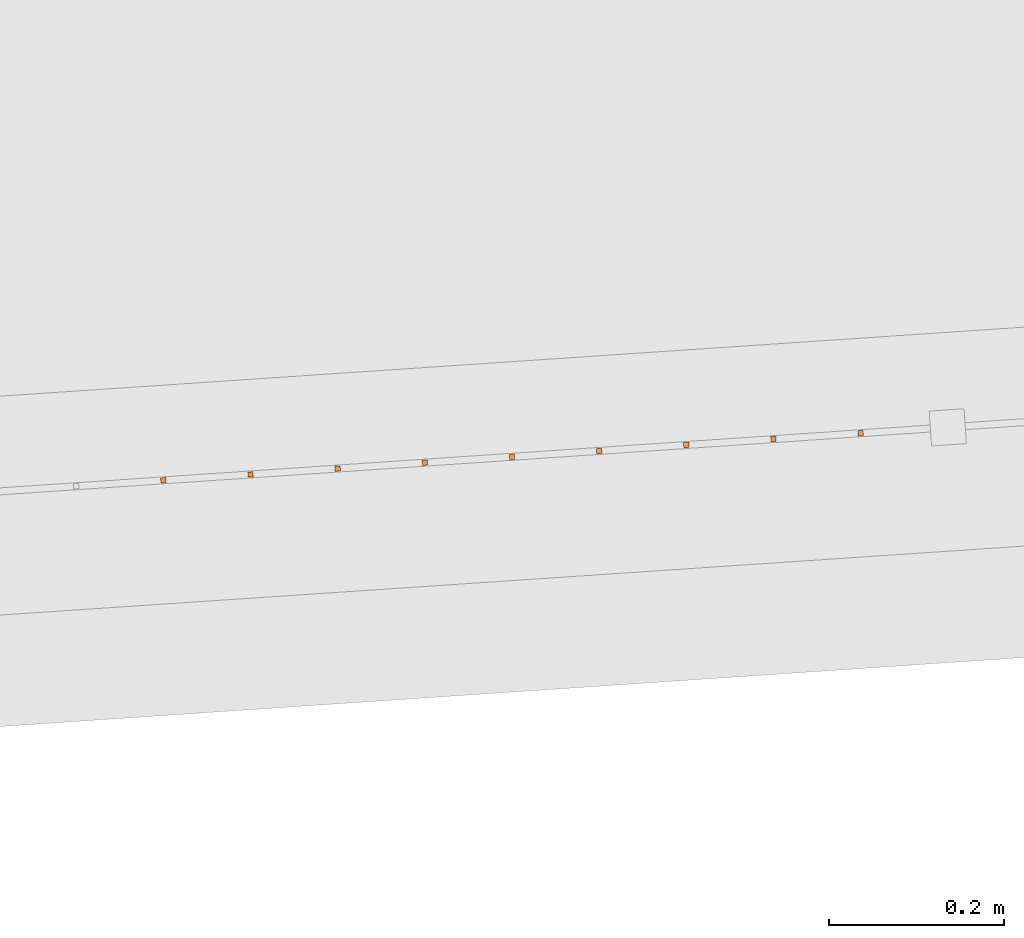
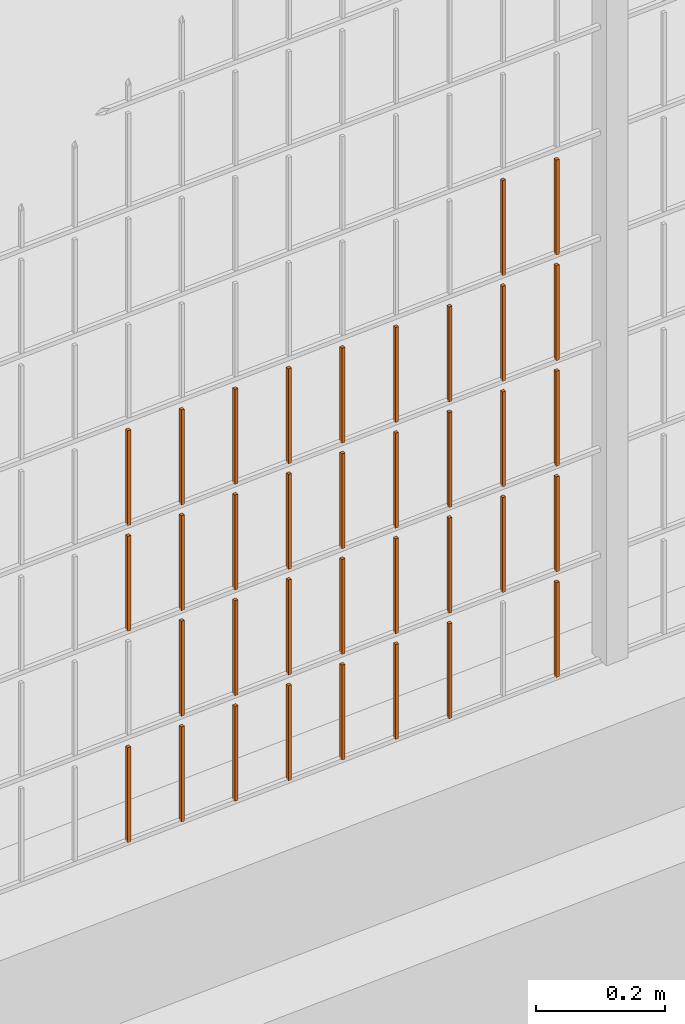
# One storey, part 274 of 1809: 36 proxies, 1 element without a shape of its own.
"""IFC2X3 building model written with IfcOpenShell, lengths in millimetres."""

from ifc_helpers import new_model, entity, si_unit, converted_unit, derived_unit, money_unit, direction, frame, origin_with_axes, place, context, subcontext, project, spatial, faceted_brep, source, transform, mapped, material, type_object, element, aggregate, save


model = new_model("IFC2X3")

# Units and contexts
model_context = context("Model", 3, precision=0.01, world=origin_with_axes(), true_north=direction((0.0, 1.0)))
body_context = subcontext(model_context, "Body", "Model", "MODEL_VIEW")
ifc_project = project(units=[si_unit("LENGTHUNIT", "METRE", prefix="MILLI"), si_unit("AREAUNIT", "SQUARE_METRE"), si_unit("VOLUMEUNIT", "CUBIC_METRE"), converted_unit("PLANEANGLEUNIT", "DEGREE", entity("IfcPlaneAngleMeasure", 0.0174532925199), si_unit("PLANEANGLEUNIT", "RADIAN"), dimensions=[0, 0, 0, 0, 0, 0, 0]), si_unit("SOLIDANGLEUNIT", "STERADIAN"), money_unit("EUR"), converted_unit("TIMEUNIT", "Year", entity("IfcTimeMeasure", 31556926.0), si_unit("TIMEUNIT", "SECOND"), dimensions=[0, 0, 1, 0, 0, 0, 0]), si_unit("MASSUNIT", "GRAM", prefix="KILO"), si_unit("THERMODYNAMICTEMPERATUREUNIT", "DEGREE_CELSIUS"), si_unit("LUMINOUSINTENSITYUNIT", "LUMEN"), si_unit("ENERGYUNIT", "JOULE", prefix="MEGA"), derived_unit("THERMALCONDUCTANCEUNIT", [(si_unit("POWERUNIT", "WATT"), 1), (si_unit("LENGTHUNIT", "METRE"), -1), (si_unit("THERMODYNAMICTEMPERATUREUNIT", "KELVIN"), -1)]), derived_unit("SPECIFICHEATCAPACITYUNIT", [(si_unit("ENERGYUNIT", "JOULE"), 1), (si_unit("MASSUNIT", "GRAM", prefix="KILO"), -1), (si_unit("THERMODYNAMICTEMPERATUREUNIT", "KELVIN"), -1)]), derived_unit("MASSDENSITYUNIT", [(si_unit("MASSUNIT", "GRAM", prefix="KILO"), 1), (si_unit("VOLUMEUNIT", "CUBIC_METRE"), -1)])], contexts=[model_context])

# Site, building, storey
site_placement = place(None, origin_with_axes())
site = spatial("IfcSite", under=ifc_project, at=site_placement, Name="Politse- ja Piirivalveameti ning Päästeameti ühishoone", CompositionType="ELEMENT")
building_placement = place(site_placement, origin_with_axes())
building = spatial("IfcBuilding", under=site, at=building_placement, Name="Politse- ja Piirivalveameti ning Päästeameti ühishoone", CompositionType="ELEMENT")
storey_placement = place(building_placement, origin_with_axes())
storey = spatial("IfcBuildingStorey", under=building, at=storey_placement, Name="Esimene korrus", CompositionType="ELEMENT", Elevation=0.0)

# Proxies
building_element_proxy_type_1 = type_object("IfcBuildingElementProxyType", Name="Railing Type", PredefinedType="NOTDEFINED")
proxy_1_placement = place(storey_placement, frame((89252.001212, -29183.4766571, 203.661247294), z_axis=(0.0, 0.0, 1.0), x_axis=(1.0, 0.0, 0.0)))
proxy_1 = element("IfcBuildingElementProxy", 1, at=proxy_1_placement, inside=storey, type_object=building_element_proxy_type_1, Name="PIIRDEAED")
ifc_material = material(Name="ET-03_Raud")
building_element_proxy_type_2 = type_object("IfcBuildingElementProxyType", Name="IfcBuildingElementProxy", PredefinedType="NOTDEFINED")
shared_shape_1 = source(origin_with_axes(), body_context, "Body", "Brep", [
    faceted_brep([(3.0, 3.0, -0.000752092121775), (-3.0, 3.0, -0.000752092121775), (-3.0, 3.0, 179.99926046), (3.0, 3.0, 179.99926046), (3.0, -3.0, 0.000752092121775), (-3.0, -3.0, 0.000752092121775), (-3.0, -3.0, 180.000764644), (3.0, -3.0, 180.000764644)], [[[0, 1, 2, 3]], [[0, 4, 5, 1]], [[1, 5, 6, 2]], [[3, 2, 6, 7]], [[4, 0, 3, 7]], [[5, 4, 7, 6]]]),
])
proxy_2_placement = place(proxy_1_placement, frame((-52806.3607445, -20864.6451459, 213.965803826), z_axis=(0.0, 0.0, 1.0), x_axis=(1.0, 0.0, 0.0)))
proxy_2 = element("IfcBuildingElementProxy", 2, at=proxy_2_placement, type_object=building_element_proxy_type_2, material=ifc_material, Name="BALUSTER - 001", context=body_context, shape_type="MappedRepresentation", body=[
    mapped(shared_shape_1, transform((0.0, 0.0, 0.0), x_axis=(-0.0673926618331, 0.997726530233, 0.0), y_axis=(-0.997726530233, -0.0673926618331, 0.0), z_axis=(0.0, 0.0, 1.0))),
])
proxy_3_placement = place(proxy_1_placement, frame((-52806.3607445, -20864.6451459, 413.965803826), z_axis=(0.0, 0.0, 1.0), x_axis=(1.0, 0.0, 0.0)))
proxy_3 = element("IfcBuildingElementProxy", 3, at=proxy_3_placement, type_object=building_element_proxy_type_2, material=ifc_material, Name="BALUSTER - 001", context=body_context, shape_type="MappedRepresentation", body=[
    mapped(shared_shape_1, transform((0.0, 0.0, 0.0), x_axis=(-0.0673926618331, 0.997726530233, 0.0), y_axis=(-0.997726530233, -0.0673926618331, 0.0), z_axis=(0.0, 0.0, 1.0))),
])
shared_shape_2 = source(origin_with_axes(), body_context, "Body", "Brep", [
    faceted_brep([(3.0, 3.0, -0.000752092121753), (-3.0, 3.0, -0.000752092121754), (-3.0, 3.0, 179.99926046), (3.0, 3.0, 179.99926046), (3.0, -3.0, 0.000752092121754), (-3.0, -3.0, 0.000752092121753), (-3.0, -3.0, 180.000764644), (3.0, -3.0, 180.000764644)], [[[0, 1, 2, 3]], [[0, 4, 5, 1]], [[1, 5, 6, 2]], [[3, 2, 6, 7]], [[4, 0, 3, 7]], [[5, 4, 7, 6]]]),
])
proxy_4_placement = place(proxy_1_placement, frame((-52706.5880915, -20857.9058797, 413.990873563), z_axis=(0.0, 0.0, 1.0), x_axis=(1.0, 0.0, 0.0)))
proxy_4 = element("IfcBuildingElementProxy", 4, at=proxy_4_placement, type_object=building_element_proxy_type_2, material=ifc_material, Name="BALUSTER - 001", context=body_context, shape_type="MappedRepresentation", body=[
    mapped(shared_shape_2, transform((0.0, 0.0, 0.0), x_axis=(-0.0673926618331, 0.997726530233, 0.0), y_axis=(-0.997726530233, -0.0673926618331, 0.0), z_axis=(0.0, 0.0, 1.0))),
])
shared_shape_3 = source(origin_with_axes(), body_context, "Body", "Brep", [
    faceted_brep([(3.0, 3.0, -0.000752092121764), (-3.0, 3.0, -0.000752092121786), (-3.0, 3.0, 179.99926046), (3.0, 3.0, 179.99926046), (3.0, -3.0, 0.000752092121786), (-3.0, -3.0, 0.000752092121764), (-3.0, -3.0, 180.000764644), (3.0, -3.0, 180.000764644)], [[[0, 1, 2, 3]], [[0, 4, 5, 1]], [[1, 5, 6, 2]], [[3, 2, 6, 7]], [[4, 0, 3, 7]], [[5, 4, 7, 6]]]),
])
proxy_5_placement = place(proxy_1_placement, frame((-52407.2701324, -20837.6880811, 214.066082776), z_axis=(0.0, 0.0, 1.0), x_axis=(1.0, 0.0, 0.0)))
proxy_5 = element("IfcBuildingElementProxy", 5, at=proxy_5_placement, type_object=building_element_proxy_type_2, material=ifc_material, Name="BALUSTER - 001", context=body_context, shape_type="MappedRepresentation", body=[
    mapped(shared_shape_3, transform((0.0, 0.0, 0.0), x_axis=(-0.0673926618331, 0.997726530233, 0.0), y_axis=(-0.997726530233, -0.0673926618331, 0.0), z_axis=(0.0, 0.0, 1.0))),
])
proxy_6_placement = place(proxy_1_placement, frame((-52407.2701324, -20837.6880811, 614.066082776), z_axis=(0.0, 0.0, 1.0), x_axis=(1.0, 0.0, 0.0)))
proxy_6 = element("IfcBuildingElementProxy", 6, at=proxy_6_placement, type_object=building_element_proxy_type_2, material=ifc_material, Name="BALUSTER - 001", context=body_context, shape_type="MappedRepresentation", body=[
    mapped(shared_shape_3, transform((0.0, 0.0, 0.0), x_axis=(-0.0673926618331, 0.997726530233, 0.0), y_axis=(-0.997726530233, -0.0673926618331, 0.0), z_axis=(0.0, 0.0, 1.0))),
])
shared_shape_4 = source(origin_with_axes(), body_context, "Body", "Brep", [
    faceted_brep([(3.0, 3.0, -0.000752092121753), (-3.0, 3.0, -0.000752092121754), (-3.0, 3.0, 179.99926046), (3.0, 3.0, 179.99926046), (3.0, -3.0, 0.000752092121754), (-3.0, -3.0, 0.000752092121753), (-3.0, -3.0, 180.000764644), (3.0, -3.0, 180.000764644)], [[[0, 1, 2, 3]], [[0, 4, 5, 1]], [[1, 5, 6, 2]], [[3, 2, 6, 7]], [[4, 0, 3, 7]], [[5, 4, 7, 6]]]),
])
proxy_7_placement = place(proxy_1_placement, frame((-52706.5880915, -20857.9058797, 613.990873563), z_axis=(0.0, 0.0, 1.0), x_axis=(1.0, 0.0, 0.0)))
proxy_7 = element("IfcBuildingElementProxy", 7, at=proxy_7_placement, type_object=building_element_proxy_type_2, material=ifc_material, Name="BALUSTER - 001", context=body_context, shape_type="MappedRepresentation", body=[
    mapped(shared_shape_4, transform((0.0, 0.0, 0.0), x_axis=(-0.0673926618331, 0.997726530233, 0.0), y_axis=(-0.997726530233, -0.0673926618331, 0.0), z_axis=(0.0, 0.0, 1.0))),
])
shared_shape_5 = source(origin_with_axes(), body_context, "Body", "Brep", [
    faceted_brep([(3.0, 3.0, -0.000752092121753), (-3.0, 3.0, -0.000752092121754), (-3.0, 3.0, 179.99926046), (3.0, 3.0, 179.99926046), (3.0, -3.0, 0.000752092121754), (-3.0, -3.0, 0.000752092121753), (-3.0, -3.0, 180.000764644), (3.0, -3.0, 180.000764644)], [[[0, 1, 2, 3]], [[0, 4, 5, 1]], [[1, 5, 6, 2]], [[3, 2, 6, 7]], [[4, 0, 3, 7]], [[5, 4, 7, 6]]]),
])
proxy_8_placement = place(proxy_1_placement, frame((-52706.5880915, -20857.9058797, 13.9908735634), z_axis=(0.0, 0.0, 1.0), x_axis=(1.0, 0.0, 0.0)))
proxy_8 = element("IfcBuildingElementProxy", 8, at=proxy_8_placement, type_object=building_element_proxy_type_2, material=ifc_material, Name="BALUSTER - 001", context=body_context, shape_type="MappedRepresentation", body=[
    mapped(shared_shape_5, transform((0.0, 0.0, 0.0), x_axis=(-0.0673926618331, 0.997726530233, 0.0), y_axis=(-0.997726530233, -0.0673926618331, 0.0), z_axis=(0.0, 0.0, 1.0))),
])
proxy_9_placement = place(proxy_1_placement, frame((-52706.5880915, -20857.9058797, 213.990873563), z_axis=(0.0, 0.0, 1.0), x_axis=(1.0, 0.0, 0.0)))
proxy_9 = element("IfcBuildingElementProxy", 9, at=proxy_9_placement, type_object=building_element_proxy_type_2, material=ifc_material, Name="BALUSTER - 001", context=body_context, shape_type="MappedRepresentation", body=[
    mapped(shared_shape_5, transform((0.0, 0.0, 0.0), x_axis=(-0.0673926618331, 0.997726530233, 0.0), y_axis=(-0.997726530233, -0.0673926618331, 0.0), z_axis=(0.0, 0.0, 1.0))),
])
shared_shape_6 = source(origin_with_axes(), body_context, "Body", "Brep", [
    faceted_brep([(3.0, 3.0, -0.000752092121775), (-3.0, 3.0, -0.000752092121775), (-3.0, 3.0, 179.99926046), (3.0, 3.0, 179.99926046), (3.0, -3.0, 0.000752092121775), (-3.0, -3.0, 0.000752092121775), (-3.0, -3.0, 180.000764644), (3.0, -3.0, 180.000764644)], [[[0, 1, 2, 3]], [[0, 4, 5, 1]], [[1, 5, 6, 2]], [[3, 2, 6, 7]], [[4, 0, 3, 7]], [[5, 4, 7, 6]]]),
])
proxy_10_placement = place(proxy_1_placement, frame((-52806.3607445, -20864.6451459, 13.965803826), z_axis=(0.0, 0.0, 1.0), x_axis=(1.0, 0.0, 0.0)))
proxy_10 = element("IfcBuildingElementProxy", 10, at=proxy_10_placement, type_object=building_element_proxy_type_2, material=ifc_material, Name="BALUSTER - 001", context=body_context, shape_type="MappedRepresentation", body=[
    mapped(shared_shape_6, transform((0.0, 0.0, 0.0), x_axis=(-0.0673926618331, 0.997726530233, 0.0), y_axis=(-0.997726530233, -0.0673926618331, 0.0), z_axis=(0.0, 0.0, 1.0))),
])
shared_shape_7 = source(origin_with_axes(), body_context, "Body", "Brep", [
    faceted_brep([(3.0, 3.0, -0.000752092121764), (-3.0, 3.0, -0.000752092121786), (-3.0, 3.0, 179.99926046), (3.0, 3.0, 179.99926046), (3.0, -3.0, 0.000752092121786), (-3.0, -3.0, 0.000752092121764), (-3.0, -3.0, 180.000764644), (3.0, -3.0, 180.000764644)], [[[0, 1, 2, 3]], [[0, 4, 5, 1]], [[1, 5, 6, 2]], [[3, 2, 6, 7]], [[4, 0, 3, 7]], [[5, 4, 7, 6]]]),
])
proxy_11_placement = place(proxy_1_placement, frame((-52407.2701324, -20837.6880811, 414.066082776), z_axis=(0.0, 0.0, 1.0), x_axis=(1.0, 0.0, 0.0)))
proxy_11 = element("IfcBuildingElementProxy", 11, at=proxy_11_placement, type_object=building_element_proxy_type_2, material=ifc_material, Name="BALUSTER - 001", context=body_context, shape_type="MappedRepresentation", body=[
    mapped(shared_shape_7, transform((0.0, 0.0, 0.0), x_axis=(-0.0673926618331, 0.997726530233, 0.0), y_axis=(-0.997726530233, -0.0673926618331, 0.0), z_axis=(0.0, 0.0, 1.0))),
])
shared_shape_8 = source(origin_with_axes(), body_context, "Body", "Brep", [
    faceted_brep([(3.0, 3.0, -0.000752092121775), (-3.0, 3.0, -0.000752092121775), (-3.0, 3.0, 179.99926046), (3.0, 3.0, 179.99926046), (3.0, -3.0, 0.000752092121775), (-3.0, -3.0, 0.000752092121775), (-3.0, -3.0, 180.000764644), (3.0, -3.0, 180.000764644)], [[[0, 1, 2, 3]], [[0, 4, 5, 1]], [[1, 5, 6, 2]], [[3, 2, 6, 7]], [[4, 0, 3, 7]], [[5, 4, 7, 6]]]),
])
proxy_12_placement = place(proxy_1_placement, frame((-52806.3607445, -20864.6451459, 613.965803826), z_axis=(0.0, 0.0, 1.0), x_axis=(1.0, 0.0, 0.0)))
proxy_12 = element("IfcBuildingElementProxy", 12, at=proxy_12_placement, type_object=building_element_proxy_type_2, material=ifc_material, Name="BALUSTER - 001", context=body_context, shape_type="MappedRepresentation", body=[
    mapped(shared_shape_8, transform((0.0, 0.0, 0.0), x_axis=(-0.0673926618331, 0.997726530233, 0.0), y_axis=(-0.997726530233, -0.0673926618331, 0.0), z_axis=(0.0, 0.0, 1.0))),
])
shared_shape_9 = source(origin_with_axes(), body_context, "Body", "Brep", [
    faceted_brep([(3.0, 3.0, -0.000752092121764), (-3.0, 3.0, -0.000752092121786), (-3.0, 3.0, 179.99926046), (3.0, 3.0, 179.99926046), (3.0, -3.0, 0.000752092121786), (-3.0, -3.0, 0.000752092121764), (-3.0, -3.0, 180.000764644), (3.0, -3.0, 180.000764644)], [[[0, 1, 2, 3]], [[0, 4, 5, 1]], [[1, 5, 6, 2]], [[3, 2, 6, 7]], [[4, 0, 3, 7]], [[5, 4, 7, 6]]]),
])
proxy_13_placement = place(proxy_1_placement, frame((-52407.2701324, -20837.6880811, 814.066082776), z_axis=(0.0, 0.0, 1.0), x_axis=(1.0, 0.0, 0.0)))
proxy_13 = element("IfcBuildingElementProxy", 13, at=proxy_13_placement, type_object=building_element_proxy_type_2, material=ifc_material, Name="BALUSTER - 001", context=body_context, shape_type="MappedRepresentation", body=[
    mapped(shared_shape_9, transform((0.0, 0.0, 0.0), x_axis=(-0.0673926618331, 0.997726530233, 0.0), y_axis=(-0.997726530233, -0.0673926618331, 0.0), z_axis=(0.0, 0.0, 1.0))),
])
shared_shape_10 = source(origin_with_axes(), body_context, "Body", "Brep", [
    faceted_brep([(3.0, 3.0, -0.000752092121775), (-3.0, 3.0, -0.000752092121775), (-3.0, 3.0, 179.99926046), (3.0, 3.0, 179.99926046), (3.0, -3.0, 0.000752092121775), (-3.0, -3.0, 0.000752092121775), (-3.0, -3.0, 180.000764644), (3.0, -3.0, 180.000764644)], [[[0, 1, 2, 3]], [[0, 4, 5, 1]], [[1, 5, 6, 2]], [[3, 2, 6, 7]], [[4, 0, 3, 7]], [[5, 4, 7, 6]]]),
])
proxy_14_placement = place(proxy_1_placement, frame((-52507.0427854, -20844.4273473, 414.041013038), z_axis=(0.0, 0.0, 1.0), x_axis=(1.0, 0.0, 0.0)))
proxy_14 = element("IfcBuildingElementProxy", 14, at=proxy_14_placement, type_object=building_element_proxy_type_2, material=ifc_material, Name="BALUSTER - 001", context=body_context, shape_type="MappedRepresentation", body=[
    mapped(shared_shape_10, transform((0.0, 0.0, 0.0), x_axis=(-0.0673926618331, 0.997726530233, 0.0), y_axis=(-0.997726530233, -0.0673926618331, 0.0), z_axis=(0.0, 0.0, 1.0))),
])
shared_shape_11 = source(origin_with_axes(), body_context, "Body", "Brep", [
    faceted_brep([(3.0, 3.0, -0.000752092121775), (-3.0, 3.0, -0.000752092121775), (-3.0, 3.0, 179.99926046), (3.0, 3.0, 179.99926046), (3.0, -3.0, 0.000752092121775), (-3.0, -3.0, 0.000752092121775), (-3.0, -3.0, 180.000764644), (3.0, -3.0, 180.000764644)], [[[0, 1, 2, 3]], [[0, 4, 5, 1]], [[1, 5, 6, 2]], [[3, 2, 6, 7]], [[4, 0, 3, 7]], [[5, 4, 7, 6]]]),
])
proxy_15_placement = place(proxy_1_placement, frame((-52507.0427854, -20844.4273473, 214.041013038), z_axis=(0.0, 0.0, 1.0), x_axis=(1.0, 0.0, 0.0)))
proxy_15 = element("IfcBuildingElementProxy", 15, at=proxy_15_placement, type_object=building_element_proxy_type_2, material=ifc_material, Name="BALUSTER - 001", context=body_context, shape_type="MappedRepresentation", body=[
    mapped(shared_shape_11, transform((0.0, 0.0, 0.0), x_axis=(-0.0673926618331, 0.997726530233, 0.0), y_axis=(-0.997726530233, -0.0673926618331, 0.0), z_axis=(0.0, 0.0, 1.0))),
])
shared_shape_12 = source(origin_with_axes(), body_context, "Body", "Brep", [
    faceted_brep([(3.0, 3.0, -0.000752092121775), (-3.0, 3.0, -0.000752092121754), (-3.0, 3.0, 179.99926046), (3.0, 3.0, 179.99926046), (3.0, -3.0, 0.000752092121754), (-3.0, -3.0, 0.000752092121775), (-3.0, -3.0, 180.000764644), (3.0, -3.0, 180.000764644)], [[[0, 1, 2, 3]], [[0, 4, 5, 1]], [[1, 5, 6, 2]], [[3, 2, 6, 7]], [[4, 0, 3, 7]], [[5, 4, 7, 6]]]),
])
proxy_16_placement = place(proxy_1_placement, frame((-52906.1333975, -20871.3844121, 413.940734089), z_axis=(0.0, 0.0, 1.0), x_axis=(1.0, 0.0, 0.0)))
proxy_16 = element("IfcBuildingElementProxy", 16, at=proxy_16_placement, type_object=building_element_proxy_type_2, material=ifc_material, Name="BALUSTER - 001", context=body_context, shape_type="MappedRepresentation", body=[
    mapped(shared_shape_12, transform((0.0, 0.0, 0.0), x_axis=(-0.0673926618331, 0.997726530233, 0.0), y_axis=(-0.997726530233, -0.0673926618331, 0.0), z_axis=(0.0, 0.0, 1.0))),
])
proxy_17_placement = place(proxy_1_placement, frame((-52906.1333975, -20871.3844121, 613.940734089), z_axis=(0.0, 0.0, 1.0), x_axis=(1.0, 0.0, 0.0)))
proxy_17 = element("IfcBuildingElementProxy", 17, at=proxy_17_placement, type_object=building_element_proxy_type_2, material=ifc_material, Name="BALUSTER - 001", context=body_context, shape_type="MappedRepresentation", body=[
    mapped(shared_shape_12, transform((0.0, 0.0, 0.0), x_axis=(-0.0673926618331, 0.997726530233, 0.0), y_axis=(-0.997726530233, -0.0673926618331, 0.0), z_axis=(0.0, 0.0, 1.0))),
])
shared_shape_13 = source(origin_with_axes(), body_context, "Body", "Brep", [
    faceted_brep([(3.0, 3.0, -0.000752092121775), (-3.0, 3.0, -0.000752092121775), (-3.0, 3.0, 179.99926046), (3.0, 3.0, 179.99926046), (3.0, -3.0, 0.000752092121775), (-3.0, -3.0, 0.000752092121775), (-3.0, -3.0, 180.000764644), (3.0, -3.0, 180.000764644)], [[[0, 1, 2, 3]], [[0, 4, 5, 1]], [[1, 5, 6, 2]], [[3, 2, 6, 7]], [[4, 0, 3, 7]], [[5, 4, 7, 6]]]),
])
proxy_18_placement = place(proxy_1_placement, frame((-52606.8154385, -20851.1666135, 14.0159433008), z_axis=(0.0, 0.0, 1.0), x_axis=(1.0, 0.0, 0.0)))
proxy_18 = element("IfcBuildingElementProxy", 18, at=proxy_18_placement, type_object=building_element_proxy_type_2, material=ifc_material, Name="BALUSTER - 001", context=body_context, shape_type="MappedRepresentation", body=[
    mapped(shared_shape_13, transform((0.0, 0.0, 0.0), x_axis=(-0.0673926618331, 0.997726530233, 0.0), y_axis=(-0.997726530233, -0.0673926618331, 0.0), z_axis=(0.0, 0.0, 1.0))),
])
proxy_19_placement = place(proxy_1_placement, frame((-52606.8154385, -20851.1666135, 214.015943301), z_axis=(0.0, 0.0, 1.0), x_axis=(1.0, 0.0, 0.0)))
proxy_19 = element("IfcBuildingElementProxy", 19, at=proxy_19_placement, type_object=building_element_proxy_type_2, material=ifc_material, Name="BALUSTER - 001", context=body_context, shape_type="MappedRepresentation", body=[
    mapped(shared_shape_13, transform((0.0, 0.0, 0.0), x_axis=(-0.0673926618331, 0.997726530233, 0.0), y_axis=(-0.997726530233, -0.0673926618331, 0.0), z_axis=(0.0, 0.0, 1.0))),
])
shared_shape_14 = source(origin_with_axes(), body_context, "Body", "Brep", [
    faceted_brep([(3.0, 3.0, -0.000752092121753), (-3.0, 3.0, -0.000752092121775), (-3.0, 3.0, 179.99926046), (3.0, 3.0, 179.99926046), (3.0, -3.0, 0.000752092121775), (-3.0, -3.0, 0.000752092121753), (-3.0, -3.0, 180.000764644), (3.0, -3.0, 180.000764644)], [[[0, 1, 2, 3]], [[0, 4, 5, 1]], [[1, 5, 6, 2]], [[3, 2, 6, 7]], [[4, 0, 3, 7]], [[5, 4, 7, 6]]]),
])
proxy_20_placement = place(proxy_1_placement, frame((-53105.6787036, -20884.8629444, 413.890594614), z_axis=(0.0, 0.0, 1.0), x_axis=(1.0, 0.0, 0.0)))
proxy_20 = element("IfcBuildingElementProxy", 20, at=proxy_20_placement, type_object=building_element_proxy_type_2, material=ifc_material, Name="BALUSTER - 001", context=body_context, shape_type="MappedRepresentation", body=[
    mapped(shared_shape_14, transform((0.0, 0.0, 0.0), x_axis=(-0.0673926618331, 0.997726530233, 0.0), y_axis=(-0.997726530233, -0.0673926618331, 0.0), z_axis=(0.0, 0.0, 1.0))),
])
shared_shape_15 = source(origin_with_axes(), body_context, "Body", "Brep", [
    faceted_brep([(3.0, 3.0, -0.000752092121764), (-3.0, 3.0, -0.000752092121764), (-3.0, 3.0, 179.99926046), (3.0, 3.0, 179.99926046), (3.0, -3.0, 0.000752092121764), (-3.0, -3.0, 0.000752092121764), (-3.0, -3.0, 180.000764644), (3.0, -3.0, 180.000764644)], [[[0, 1, 2, 3]], [[0, 4, 5, 1]], [[1, 5, 6, 2]], [[3, 2, 6, 7]], [[4, 0, 3, 7]], [[5, 4, 7, 6]]]),
])
proxy_21_placement = place(proxy_1_placement, frame((-52307.4974794, -20830.948815, 214.091152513), z_axis=(0.0, 0.0, 1.0), x_axis=(1.0, 0.0, 0.0)))
proxy_21 = element("IfcBuildingElementProxy", 21, at=proxy_21_placement, type_object=building_element_proxy_type_2, material=ifc_material, Name="BALUSTER - 001", context=body_context, shape_type="MappedRepresentation", body=[
    mapped(shared_shape_15, transform((0.0, 0.0, 0.0), x_axis=(-0.0673926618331, 0.997726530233, 0.0), y_axis=(-0.997726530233, -0.0673926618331, 0.0), z_axis=(0.0, 0.0, 1.0))),
])
proxy_22_placement = place(proxy_1_placement, frame((-53005.9060506, -20878.1236782, 213.915664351), z_axis=(0.0, 0.0, 1.0), x_axis=(1.0, 0.0, 0.0)))
proxy_22 = element("IfcBuildingElementProxy", 22, at=proxy_22_placement, type_object=building_element_proxy_type_2, material=ifc_material, Name="BALUSTER - 001", context=body_context, shape_type="MappedRepresentation", body=[
    mapped(shared_shape_15, transform((0.0, 0.0, 0.0), x_axis=(-0.0673926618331, 0.997726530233, 0.0), y_axis=(-0.997726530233, -0.0673926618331, 0.0), z_axis=(0.0, 0.0, 1.0))),
])
proxy_23_placement = place(proxy_1_placement, frame((-52307.4974794, -20830.948815, 414.091152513), z_axis=(0.0, 0.0, 1.0), x_axis=(1.0, 0.0, 0.0)))
proxy_23 = element("IfcBuildingElementProxy", 23, at=proxy_23_placement, type_object=building_element_proxy_type_2, material=ifc_material, Name="BALUSTER - 001", context=body_context, shape_type="MappedRepresentation", body=[
    mapped(shared_shape_15, transform((0.0, 0.0, 0.0), x_axis=(-0.0673926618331, 0.997726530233, 0.0), y_axis=(-0.997726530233, -0.0673926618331, 0.0), z_axis=(0.0, 0.0, 1.0))),
])
proxy_24_placement = place(proxy_1_placement, frame((-53005.9060506, -20878.1236782, 413.915664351), z_axis=(0.0, 0.0, 1.0), x_axis=(1.0, 0.0, 0.0)))
proxy_24 = element("IfcBuildingElementProxy", 24, at=proxy_24_placement, type_object=building_element_proxy_type_2, material=ifc_material, Name="BALUSTER - 001", context=body_context, shape_type="MappedRepresentation", body=[
    mapped(shared_shape_15, transform((0.0, 0.0, 0.0), x_axis=(-0.0673926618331, 0.997726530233, 0.0), y_axis=(-0.997726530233, -0.0673926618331, 0.0), z_axis=(0.0, 0.0, 1.0))),
])
proxy_25_placement = place(proxy_1_placement, frame((-52307.4974794, -20830.948815, 614.091152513), z_axis=(0.0, 0.0, 1.0), x_axis=(1.0, 0.0, 0.0)))
proxy_25 = element("IfcBuildingElementProxy", 25, at=proxy_25_placement, type_object=building_element_proxy_type_2, material=ifc_material, Name="BALUSTER - 001", context=body_context, shape_type="MappedRepresentation", body=[
    mapped(shared_shape_15, transform((0.0, 0.0, 0.0), x_axis=(-0.0673926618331, 0.997726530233, 0.0), y_axis=(-0.997726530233, -0.0673926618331, 0.0), z_axis=(0.0, 0.0, 1.0))),
])
proxy_26_placement = place(proxy_1_placement, frame((-53005.9060506, -20878.1236782, 613.915664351), z_axis=(0.0, 0.0, 1.0), x_axis=(1.0, 0.0, 0.0)))
proxy_26 = element("IfcBuildingElementProxy", 26, at=proxy_26_placement, type_object=building_element_proxy_type_2, material=ifc_material, Name="BALUSTER - 001", context=body_context, shape_type="MappedRepresentation", body=[
    mapped(shared_shape_15, transform((0.0, 0.0, 0.0), x_axis=(-0.0673926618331, 0.997726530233, 0.0), y_axis=(-0.997726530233, -0.0673926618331, 0.0), z_axis=(0.0, 0.0, 1.0))),
])
shared_shape_16 = source(origin_with_axes(), body_context, "Body", "Brep", [
    faceted_brep([(3.0, 3.0, -0.000752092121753), (-3.0, 3.0, -0.000752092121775), (-3.0, 3.0, 179.99926046), (3.0, 3.0, 179.99926046), (3.0, -3.0, 0.000752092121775), (-3.0, -3.0, 0.000752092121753), (-3.0, -3.0, 180.000764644), (3.0, -3.0, 180.000764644)], [[[0, 1, 2, 3]], [[0, 4, 5, 1]], [[1, 5, 6, 2]], [[3, 2, 6, 7]], [[4, 0, 3, 7]], [[5, 4, 7, 6]]]),
])
proxy_27_placement = place(proxy_1_placement, frame((-53105.6787036, -20884.8629444, 613.890594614), z_axis=(0.0, 0.0, 1.0), x_axis=(1.0, 0.0, 0.0)))
proxy_27 = element("IfcBuildingElementProxy", 27, at=proxy_27_placement, type_object=building_element_proxy_type_2, material=ifc_material, Name="BALUSTER - 001", context=body_context, shape_type="MappedRepresentation", body=[
    mapped(shared_shape_16, transform((0.0, 0.0, 0.0), x_axis=(-0.0673926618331, 0.997726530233, 0.0), y_axis=(-0.997726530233, -0.0673926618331, 0.0), z_axis=(0.0, 0.0, 1.0))),
])
shared_shape_17 = source(origin_with_axes(), body_context, "Body", "Brep", [
    faceted_brep([(3.0, 3.0, -0.000752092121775), (-3.0, 3.0, -0.000752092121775), (-3.0, 3.0, 179.99926046), (3.0, 3.0, 179.99926046), (3.0, -3.0, 0.000752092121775), (-3.0, -3.0, 0.000752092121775), (-3.0, -3.0, 180.000764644), (3.0, -3.0, 180.000764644)], [[[0, 1, 2, 3]], [[0, 4, 5, 1]], [[1, 5, 6, 2]], [[3, 2, 6, 7]], [[4, 0, 3, 7]], [[5, 4, 7, 6]]]),
])
proxy_28_placement = place(proxy_1_placement, frame((-52606.8154385, -20851.1666135, 414.015943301), z_axis=(0.0, 0.0, 1.0), x_axis=(1.0, 0.0, 0.0)))
proxy_28 = element("IfcBuildingElementProxy", 28, at=proxy_28_placement, type_object=building_element_proxy_type_2, material=ifc_material, Name="BALUSTER - 001", context=body_context, shape_type="MappedRepresentation", body=[
    mapped(shared_shape_17, transform((0.0, 0.0, 0.0), x_axis=(-0.0673926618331, 0.997726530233, 0.0), y_axis=(-0.997726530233, -0.0673926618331, 0.0), z_axis=(0.0, 0.0, 1.0))),
])
shared_shape_18 = source(origin_with_axes(), body_context, "Body", "Brep", [
    faceted_brep([(3.0, 3.0, -0.000752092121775), (-3.0, 3.0, -0.000752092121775), (-3.0, 3.0, 179.99926046), (3.0, 3.0, 179.99926046), (3.0, -3.0, 0.000752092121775), (-3.0, -3.0, 0.000752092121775), (-3.0, -3.0, 180.000764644), (3.0, -3.0, 180.000764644)], [[[0, 1, 2, 3]], [[0, 4, 5, 1]], [[1, 5, 6, 2]], [[3, 2, 6, 7]], [[4, 0, 3, 7]], [[5, 4, 7, 6]]]),
])
proxy_29_placement = place(proxy_1_placement, frame((-52507.0427854, -20844.4273473, 614.041013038), z_axis=(0.0, 0.0, 1.0), x_axis=(1.0, 0.0, 0.0)))
proxy_29 = element("IfcBuildingElementProxy", 29, at=proxy_29_placement, type_object=building_element_proxy_type_2, material=ifc_material, Name="BALUSTER - 001", context=body_context, shape_type="MappedRepresentation", body=[
    mapped(shared_shape_18, transform((0.0, 0.0, 0.0), x_axis=(-0.0673926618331, 0.997726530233, 0.0), y_axis=(-0.997726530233, -0.0673926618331, 0.0), z_axis=(0.0, 0.0, 1.0))),
])
shared_shape_19 = source(origin_with_axes(), body_context, "Body", "Brep", [
    faceted_brep([(3.0, 3.0, -0.000752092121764), (-3.0, 3.0, -0.000752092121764), (-3.0, 3.0, 179.99926046), (3.0, 3.0, 179.99926046), (3.0, -3.0, 0.000752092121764), (-3.0, -3.0, 0.000752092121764), (-3.0, -3.0, 180.000764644), (3.0, -3.0, 180.000764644)], [[[0, 1, 2, 3]], [[0, 4, 5, 1]], [[1, 5, 6, 2]], [[3, 2, 6, 7]], [[4, 0, 3, 7]], [[5, 4, 7, 6]]]),
])
proxy_30_placement = place(proxy_1_placement, frame((-52307.4974794, -20830.948815, 814.091152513), z_axis=(0.0, 0.0, 1.0), x_axis=(1.0, 0.0, 0.0)))
proxy_30 = element("IfcBuildingElementProxy", 30, at=proxy_30_placement, type_object=building_element_proxy_type_2, material=ifc_material, Name="BALUSTER - 001", context=body_context, shape_type="MappedRepresentation", body=[
    mapped(shared_shape_19, transform((0.0, 0.0, 0.0), x_axis=(-0.0673926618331, 0.997726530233, 0.0), y_axis=(-0.997726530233, -0.0673926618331, 0.0), z_axis=(0.0, 0.0, 1.0))),
])
shared_shape_20 = source(origin_with_axes(), body_context, "Body", "Brep", [
    faceted_brep([(3.0, 3.0, -0.000752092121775), (-3.0, 3.0, -0.000752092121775), (-3.0, 3.0, 179.99926046), (3.0, 3.0, 179.99926046), (3.0, -3.0, 0.000752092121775), (-3.0, -3.0, 0.000752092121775), (-3.0, -3.0, 180.000764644), (3.0, -3.0, 180.000764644)], [[[0, 1, 2, 3]], [[0, 4, 5, 1]], [[1, 5, 6, 2]], [[3, 2, 6, 7]], [[4, 0, 3, 7]], [[5, 4, 7, 6]]]),
])
proxy_31_placement = place(proxy_1_placement, frame((-52606.8154385, -20851.1666135, 614.015943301), z_axis=(0.0, 0.0, 1.0), x_axis=(1.0, 0.0, 0.0)))
proxy_31 = element("IfcBuildingElementProxy", 31, at=proxy_31_placement, type_object=building_element_proxy_type_2, material=ifc_material, Name="BALUSTER - 001", context=body_context, shape_type="MappedRepresentation", body=[
    mapped(shared_shape_20, transform((0.0, 0.0, 0.0), x_axis=(-0.0673926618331, 0.997726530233, 0.0), y_axis=(-0.997726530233, -0.0673926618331, 0.0), z_axis=(0.0, 0.0, 1.0))),
])
shared_shape_21 = source(origin_with_axes(), body_context, "Body", "Brep", [
    faceted_brep([(3.0, 3.0, -0.000752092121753), (-3.0, 3.0, -0.000752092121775), (-3.0, 3.0, 179.99926046), (3.0, 3.0, 179.99926046), (3.0, -3.0, 0.000752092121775), (-3.0, -3.0, 0.000752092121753), (-3.0, -3.0, 180.000764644), (3.0, -3.0, 180.000764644)], [[[0, 1, 2, 3]], [[0, 4, 5, 1]], [[1, 5, 6, 2]], [[3, 2, 6, 7]], [[4, 0, 3, 7]], [[5, 4, 7, 6]]]),
])
proxy_32_placement = place(proxy_1_placement, frame((-53105.6787036, -20884.8629444, 13.8905946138), z_axis=(0.0, 0.0, 1.0), x_axis=(1.0, 0.0, 0.0)))
proxy_32 = element("IfcBuildingElementProxy", 32, at=proxy_32_placement, type_object=building_element_proxy_type_2, material=ifc_material, Name="BALUSTER - 001", context=body_context, shape_type="MappedRepresentation", body=[
    mapped(shared_shape_21, transform((0.0, 0.0, 0.0), x_axis=(-0.0673926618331, 0.997726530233, 0.0), y_axis=(-0.997726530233, -0.0673926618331, 0.0), z_axis=(0.0, 0.0, 1.0))),
])
shared_shape_22 = source(origin_with_axes(), body_context, "Body", "Brep", [
    faceted_brep([(3.0, 3.0, -0.000752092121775), (-3.0, 3.0, -0.000752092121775), (-3.0, 3.0, 179.99926046), (3.0, 3.0, 179.99926046), (3.0, -3.0, 0.000752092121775), (-3.0, -3.0, 0.000752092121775), (-3.0, -3.0, 180.000764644), (3.0, -3.0, 180.000764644)], [[[0, 1, 2, 3]], [[0, 4, 5, 1]], [[1, 5, 6, 2]], [[3, 2, 6, 7]], [[4, 0, 3, 7]], [[5, 4, 7, 6]]]),
])
proxy_33_placement = place(proxy_1_placement, frame((-52507.0427854, -20844.4273473, 14.0410130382), z_axis=(0.0, 0.0, 1.0), x_axis=(1.0, 0.0, 0.0)))
proxy_33 = element("IfcBuildingElementProxy", 33, at=proxy_33_placement, type_object=building_element_proxy_type_2, material=ifc_material, Name="BALUSTER - 001", context=body_context, shape_type="MappedRepresentation", body=[
    mapped(shared_shape_22, transform((0.0, 0.0, 0.0), x_axis=(-0.0673926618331, 0.997726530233, 0.0), y_axis=(-0.997726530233, -0.0673926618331, 0.0), z_axis=(0.0, 0.0, 1.0))),
])
shared_shape_23 = source(origin_with_axes(), body_context, "Body", "Brep", [
    faceted_brep([(3.0, 3.0, -0.000752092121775), (-3.0, 3.0, -0.000752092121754), (-3.0, 3.0, 179.99926046), (3.0, 3.0, 179.99926046), (3.0, -3.0, 0.000752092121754), (-3.0, -3.0, 0.000752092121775), (-3.0, -3.0, 180.000764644), (3.0, -3.0, 180.000764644)], [[[0, 1, 2, 3]], [[0, 4, 5, 1]], [[1, 5, 6, 2]], [[3, 2, 6, 7]], [[4, 0, 3, 7]], [[5, 4, 7, 6]]]),
])
proxy_34_placement = place(proxy_1_placement, frame((-52906.1333975, -20871.3844121, 13.9407340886), z_axis=(0.0, 0.0, 1.0), x_axis=(1.0, 0.0, 0.0)))
proxy_34 = element("IfcBuildingElementProxy", 34, at=proxy_34_placement, type_object=building_element_proxy_type_2, material=ifc_material, Name="BALUSTER - 001", context=body_context, shape_type="MappedRepresentation", body=[
    mapped(shared_shape_23, transform((0.0, 0.0, 0.0), x_axis=(-0.0673926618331, 0.997726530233, 0.0), y_axis=(-0.997726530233, -0.0673926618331, 0.0), z_axis=(0.0, 0.0, 1.0))),
])
shared_shape_24 = source(origin_with_axes(), body_context, "Body", "Brep", [
    faceted_brep([(3.0, 3.0, -0.000752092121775), (-3.0, 3.0, -0.000752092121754), (-3.0, 3.0, 179.99926046), (3.0, 3.0, 179.99926046), (3.0, -3.0, 0.000752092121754), (-3.0, -3.0, 0.000752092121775), (-3.0, -3.0, 180.000764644), (3.0, -3.0, 180.000764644)], [[[0, 1, 2, 3]], [[0, 4, 5, 1]], [[1, 5, 6, 2]], [[3, 2, 6, 7]], [[4, 0, 3, 7]], [[5, 4, 7, 6]]]),
])
proxy_35_placement = place(proxy_1_placement, frame((-52906.1333975, -20871.3844121, 213.940734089), z_axis=(0.0, 0.0, 1.0), x_axis=(1.0, 0.0, 0.0)))
proxy_35 = element("IfcBuildingElementProxy", 35, at=proxy_35_placement, type_object=building_element_proxy_type_2, material=ifc_material, Name="BALUSTER - 001", context=body_context, shape_type="MappedRepresentation", body=[
    mapped(shared_shape_24, transform((0.0, 0.0, 0.0), x_axis=(-0.0673926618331, 0.997726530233, 0.0), y_axis=(-0.997726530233, -0.0673926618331, 0.0), z_axis=(0.0, 0.0, 1.0))),
])
shared_shape_25 = source(origin_with_axes(), body_context, "Body", "Brep", [
    faceted_brep([(3.0, 3.0, -0.000752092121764), (-3.0, 3.0, -0.000752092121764), (-3.0, 3.0, 179.99926046), (3.0, 3.0, 179.99926046), (3.0, -3.0, 0.000752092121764), (-3.0, -3.0, 0.000752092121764), (-3.0, -3.0, 180.000764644), (3.0, -3.0, 180.000764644)], [[[0, 1, 2, 3]], [[0, 4, 5, 1]], [[1, 5, 6, 2]], [[3, 2, 6, 7]], [[4, 0, 3, 7]], [[5, 4, 7, 6]]]),
])
proxy_36_placement = place(proxy_1_placement, frame((-52307.4974794, -20830.948815, 14.0911525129), z_axis=(0.0, 0.0, 1.0), x_axis=(1.0, 0.0, 0.0)))
proxy_36 = element("IfcBuildingElementProxy", 36, at=proxy_36_placement, type_object=building_element_proxy_type_2, material=ifc_material, Name="BALUSTER - 001", context=body_context, shape_type="MappedRepresentation", body=[
    mapped(shared_shape_25, transform((0.0, 0.0, 0.0), x_axis=(-0.0673926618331, 0.997726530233, 0.0), y_axis=(-0.997726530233, -0.0673926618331, 0.0), z_axis=(0.0, 0.0, 1.0))),
])
proxy_37_placement = place(proxy_1_placement, frame((-53005.9060506, -20878.1236782, 13.9156643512), z_axis=(0.0, 0.0, 1.0), x_axis=(1.0, 0.0, 0.0)))
proxy_37 = element("IfcBuildingElementProxy", 37, at=proxy_37_placement, type_object=building_element_proxy_type_2, material=ifc_material, Name="BALUSTER - 001", context=body_context, shape_type="MappedRepresentation", body=[
    mapped(shared_shape_25, transform((0.0, 0.0, 0.0), x_axis=(-0.0673926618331, 0.997726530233, 0.0), y_axis=(-0.997726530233, -0.0673926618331, 0.0), z_axis=(0.0, 0.0, 1.0))),
])
aggregate(proxy_1, [proxy_36, proxy_33, proxy_18, proxy_8, proxy_10, proxy_34, proxy_37, proxy_32, proxy_21, proxy_5, proxy_15, proxy_19, proxy_9, proxy_2, proxy_35, proxy_22, proxy_23, proxy_11, proxy_14, proxy_28, proxy_4, proxy_3, proxy_16, proxy_24, proxy_20, proxy_25, proxy_6, proxy_29, proxy_31, proxy_7, proxy_12, proxy_17, proxy_26, proxy_27, proxy_30, proxy_13])

save(model, "model.ifc")
